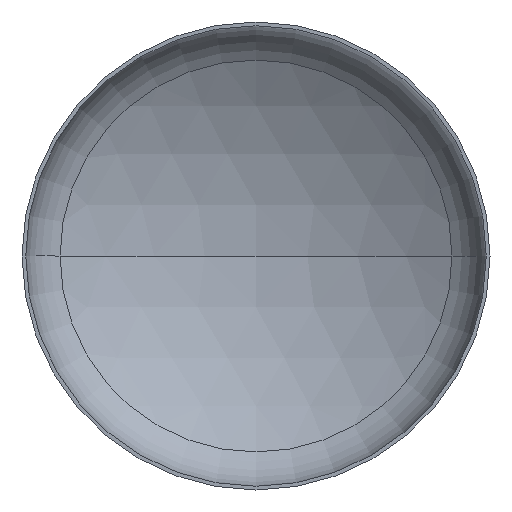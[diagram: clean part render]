
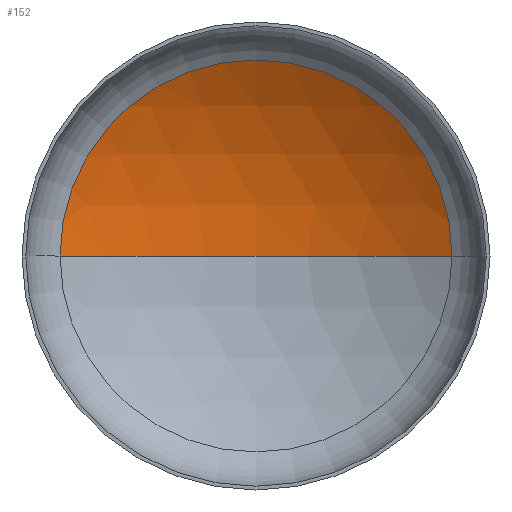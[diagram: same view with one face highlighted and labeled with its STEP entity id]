
A CAD part, front view. The second image highlights one B-rep face of the part: STEP entity #152.
In plain terms, the highlighted spherical face has radius 6400 mm.
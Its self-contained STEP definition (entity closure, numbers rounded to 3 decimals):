
#23 = AXIS2_PLACEMENT_3D ( 'NONE', #252, #267, #266 ) ;
#44 = AXIS2_PLACEMENT_3D ( 'NONE', #206, #208, #184 ) ;
#47 = AXIS2_PLACEMENT_3D ( 'NONE', #287, #216, #214 ) ;
#50 = AXIS2_PLACEMENT_3D ( 'NONE', #180, #193, #195 ) ;
#87 = EDGE_CURVE ( 'NONE', #169, #146, #131, .T. ) ;
#89 = EDGE_CURVE ( 'NONE', #147, #169, #391, .T. ) ;
#90 = EDGE_CURVE ( 'NONE', #147, #146, #329, .T. ) ;
#101 = ORIENTED_EDGE ( 'NONE', *, *, #87, .T. ) ;
#115 = ORIENTED_EDGE ( 'NONE', *, *, #89, .T. ) ;
#131 = CIRCLE ( 'NONE', #50, 3349.787 ) ;
#146 = VERTEX_POINT ( 'NONE', #254 ) ;
#147 = VERTEX_POINT ( 'NONE', #251 ) ;
#152 = ADVANCED_FACE ( 'NONE', ( #377 ), #213, .F. ) ;
#161 = ORIENTED_EDGE ( 'NONE', *, *, #90, .F. ) ;
#167 = EDGE_LOOP ( 'NONE', ( #161, #115, #101 ) ) ;
#169 = VERTEX_POINT ( 'NONE', #233 ) ;
#180 = CARTESIAN_POINT ( 'NONE',  ( 0., 1168.064, 0. ) ) ;
#184 = DIRECTION ( 'NONE',  ( 1., 0., 0. ) ) ;
#193 = DIRECTION ( 'NONE',  ( 0., -1., 0. ) ) ;
#195 = DIRECTION ( 'NONE',  ( 1., 0., 0. ) ) ;
#206 = CARTESIAN_POINT ( 'NONE',  ( 0., -4285.277, 0. ) ) ;
#208 = DIRECTION ( 'NONE',  ( 0., 0., 1. ) ) ;
#213 = SPHERICAL_SURFACE ( 'NONE', #23, 6400. ) ;
#214 = DIRECTION ( 'NONE',  ( -1., 0., 0. ) ) ;
#216 = DIRECTION ( 'NONE',  ( 0., 0., -1. ) ) ;
#233 = CARTESIAN_POINT ( 'NONE',  ( 3349.787, 1168.064, 0. ) ) ;
#251 = CARTESIAN_POINT ( 'NONE',  ( 0., 2114.723, 0. ) ) ;
#252 = CARTESIAN_POINT ( 'NONE',  ( 0., -4285.277, 0. ) ) ;
#254 = CARTESIAN_POINT ( 'NONE',  ( -3349.787, 1168.064, 0. ) ) ;
#266 = DIRECTION ( 'NONE',  ( -1., 0., 0. ) ) ;
#267 = DIRECTION ( 'NONE',  ( 0., 0., -1. ) ) ;
#287 = CARTESIAN_POINT ( 'NONE',  ( 0., -4285.277, 0. ) ) ;
#329 = CIRCLE ( 'NONE', #44, 6400. ) ;
#377 = FACE_OUTER_BOUND ( 'NONE', #167, .T. ) ;
#391 = CIRCLE ( 'NONE', #47, 6400. ) ;
